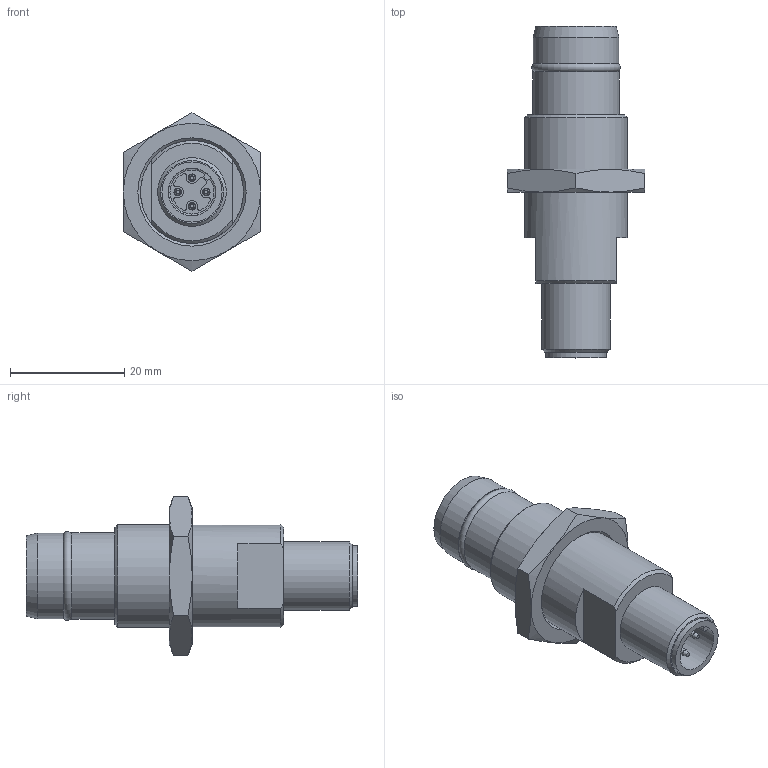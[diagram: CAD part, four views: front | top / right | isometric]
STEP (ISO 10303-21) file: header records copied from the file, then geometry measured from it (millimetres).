
FILE_DESCRIPTION((''),'2;1');
FILE_NAME('C:\TurckZip\BID-G180-H1.stp','2007-10-22T13:50:34',('IKOROL'),(''),'Autodesk Inventor 2008','Autodesk Inventor 2008','');
FILE_SCHEMA(('AUTOMOTIVE_DESIGN { 1 2 10303 214 0 1 1 1 }'));
Length unit declared in the file: millimetre
Products named in the file (1): Part1
Bounding box: 24 x 58 x 27.71 mm (x, y, z)
Volume: 8330.7 mm3; surface area: 6704.7 mm2
Topology: 1 solids, 8 shells, 154 faces, 353 edges, 228 vertices
Faces by surface type: plane 53, cylinder 49, cone 27, bspline 16, torus 9
Full cylindrical faces by diameter (mm): 1.1 x4, 1.2 x1, 1.3 x4, 1.8 x4, 8 x1, 8.3 x1, 9 x1, 9.4 x1, 9.9 x1, 10 x1, 10.5 x1, 11 x1, 12 x1, 13 x2, 15 x1, 15.104 x1, 18 x2
Entity records: 4505 total; most frequent: CARTESIAN_POINT 1229, DIRECTION 658, ORIENTED_EDGE 546, AXIS2_PLACEMENT_3D 292, EDGE_CURVE 273, EDGE_LOOP 246, VERTEX_POINT 205, FACE_OUTER_BOUND 154
